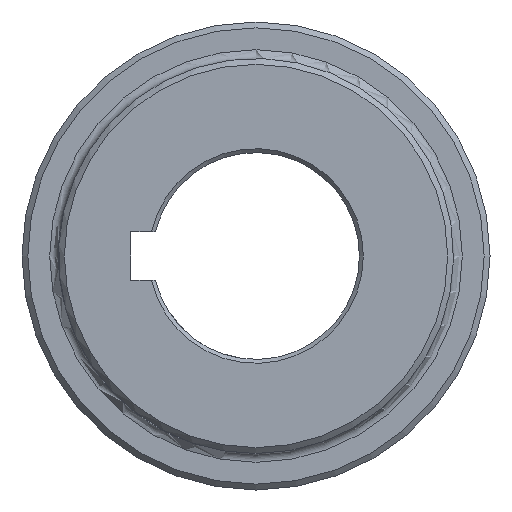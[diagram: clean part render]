
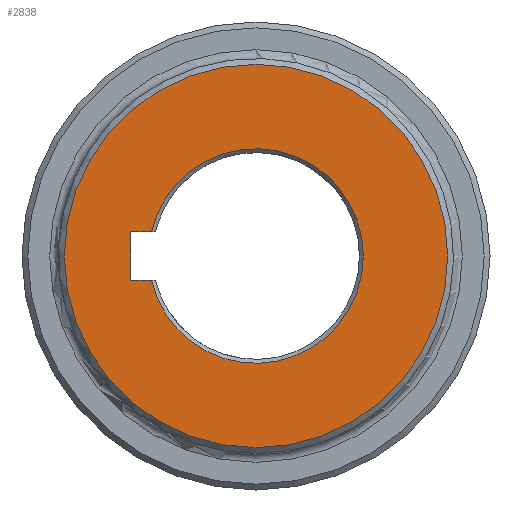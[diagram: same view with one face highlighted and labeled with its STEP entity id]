
A CAD part, left-side view. The second image highlights one B-rep face of the part: STEP entity #2838.
In plain terms, the highlighted planar face has unit normal (-1, 0, 0).
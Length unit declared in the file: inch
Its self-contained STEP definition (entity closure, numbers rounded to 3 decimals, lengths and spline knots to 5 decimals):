
#10 = EDGE_CURVE ( 'NONE', #1423, #1423, #1417, .T. ) ;
#33 = EDGE_CURVE ( 'NONE', #2596, #2674, #832, .T. ) ;
#50 = PLANE ( 'NONE',  #2435 ) ;
#65 = VECTOR ( 'NONE', #1671, 39.37008 ) ;
#141 = EDGE_LOOP ( 'NONE', ( #1953 ) ) ;
#182 = DIRECTION ( 'NONE',  ( 0., 0., -1. ) ) ;
#183 = AXIS2_PLACEMENT_3D ( 'NONE', #861, #1911, #182 ) ;
#329 = DIRECTION ( 'NONE',  ( 1., 0., 0. ) ) ;
#416 = CARTESIAN_POINT ( 'NONE',  ( 0., 0., 0. ) ) ;
#417 = ORIENTED_EDGE ( 'NONE', *, *, #1907, .F. ) ;
#501 = LINE ( 'NONE', #1303, #65 ) ;
#549 = FACE_BOUND ( 'NONE', #1951, .T. ) ;
#578 = VERTEX_POINT ( 'NONE', #2340 ) ;
#629 = FACE_OUTER_BOUND ( 'NONE', #141, .T. ) ;
#651 = VECTOR ( 'NONE', #2369, 39.37008 ) ;
#763 = VECTOR ( 'NONE', #2519, 39.37008 ) ;
#802 = CIRCLE ( 'NONE', #183, 1.1029 ) ;
#832 = LINE ( 'NONE', #1537, #763 ) ;
#861 = CARTESIAN_POINT ( 'NONE',  ( 0., 0., 0. ) ) ;
#1208 = VERTEX_POINT ( 'NONE', #1967 ) ;
#1303 = CARTESIAN_POINT ( 'NONE',  ( 0., 0., 0.25 ) ) ;
#1387 = ORIENTED_EDGE ( 'NONE', *, *, #2778, .F. ) ;
#1401 = CARTESIAN_POINT ( 'NONE',  ( 0., 1.2881, -0.25 ) ) ;
#1407 = CARTESIAN_POINT ( 'NONE',  ( 0., 0., 0. ) ) ;
#1417 = CIRCLE ( 'NONE', #2531, 1.97 ) ;
#1423 = VERTEX_POINT ( 'NONE', #1552 ) ;
#1473 = CARTESIAN_POINT ( 'NONE',  ( 0., 1.07419, -0.25 ) ) ;
#1537 = CARTESIAN_POINT ( 'NONE',  ( 0., 0., -0.25 ) ) ;
#1552 = CARTESIAN_POINT ( 'NONE',  ( 0., 0., -1.97 ) ) ;
#1634 = DIRECTION ( 'NONE',  ( 0., 0., -1. ) ) ;
#1671 = DIRECTION ( 'NONE',  ( 0., 1., 0. ) ) ;
#1907 = EDGE_CURVE ( 'NONE', #1208, #578, #501, .T. ) ;
#1911 = DIRECTION ( 'NONE',  ( 1., 0., 0. ) ) ;
#1951 = EDGE_LOOP ( 'NONE', ( #417, #2188, #2552, #1387 ) ) ;
#1953 = ORIENTED_EDGE ( 'NONE', *, *, #10, .T. ) ;
#1967 = CARTESIAN_POINT ( 'NONE',  ( 0., 1.07419, 0.25 ) ) ;
#2006 = DIRECTION ( 'NONE',  ( 0., 0., -1. ) ) ;
#2055 = DIRECTION ( 'NONE',  ( -1., 0., 0. ) ) ;
#2188 = ORIENTED_EDGE ( 'NONE', *, *, #2559, .T. ) ;
#2340 = CARTESIAN_POINT ( 'NONE',  ( 0., 1.2881, 0.25 ) ) ;
#2369 = DIRECTION ( 'NONE',  ( 0., 0., -1. ) ) ;
#2435 = AXIS2_PLACEMENT_3D ( 'NONE', #416, #329, #1634 ) ;
#2519 = DIRECTION ( 'NONE',  ( 0., -1., 0. ) ) ;
#2531 = AXIS2_PLACEMENT_3D ( 'NONE', #1407, #2055, #2006 ) ;
#2552 = ORIENTED_EDGE ( 'NONE', *, *, #33, .F. ) ;
#2559 = EDGE_CURVE ( 'NONE', #1208, #2674, #802, .T. ) ;
#2596 = VERTEX_POINT ( 'NONE', #2883 ) ;
#2640 = LINE ( 'NONE', #1401, #651 ) ;
#2674 = VERTEX_POINT ( 'NONE', #1473 ) ;
#2778 = EDGE_CURVE ( 'NONE', #578, #2596, #2640, .T. ) ;
#2838 = ADVANCED_FACE ( 'NONE', ( #629, #549 ), #50, .F. ) ;
#2883 = CARTESIAN_POINT ( 'NONE',  ( 0., 1.2881, -0.25 ) ) ;
